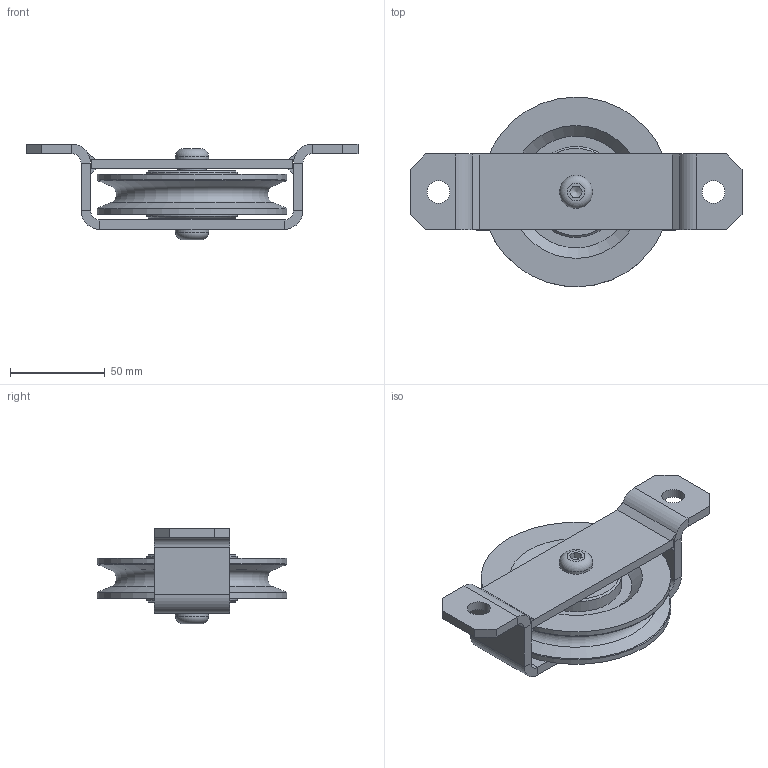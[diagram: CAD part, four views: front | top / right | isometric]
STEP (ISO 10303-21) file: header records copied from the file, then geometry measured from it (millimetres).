
FILE_DESCRIPTION(/* description */ ('Seilrolle ø100 Seitenbefestigung Kugellager'),/* implementation_level */ '2;1');
FILE_NAME(/* name */ 'Z:\Workspace\03 Seilrollen\1.407 K Seilrollen Seitenbefestigung Kugellager\1.407.03 K Seilrolle ø100 Seitenbefestigung Kugellager\1.407.03 K Seilrolle ø100 Seitenbefestigung Kugellager.stp',/* time_stamp */ '2021-10-08T13:40:19+02:00',/* author */ ('cad-user'),/* organization */ (''),/* preprocessor_version */ 'ST-DEVELOPER v18',/* originating_system */ 'Autodesk Inventor 2020',/* authorisation */ '');
FILE_SCHEMA (('AUTOMOTIVE_DESIGN { 1 0 10303 214 3 1 1 }'));
Length unit declared in the file: millimetre
Products named in the file (15): 1.407.03 K Seilrolle ø100 Seitenbefestigung Kugella
ger; 1.407.03.00 Seitenbefestigung SR ø100; 1.407.03.00 Seitenbefestigung SR ø100_1; 1.407.03.01 Blech 1; 1.407.03.02 Blech 2; 1.402.03 Seilrolle ø100 Kugellager komplett; 1.402.03 Seilrolle ø100 Kugellager; DIN625 - 6202-2RS; din625_-_6202-2rs_0_05; din625_-_6202-2rs_0_04; din625_-_6202-2rs_0_03; din625_-_6202-2rs_0_02; din625_-_6202-2rs_0_01; 1.405.03.02 K Achse; ISO 7380 - M10 x 16
Assembly tree (16 placements, depth 4):
  1.407.03 K Seilrolle ø100 Seitenbefestigung Kugella
ger
    1.407.03.00 Seitenbefestigung SR ø100
      1.407.03.00 Seitenbefestigung SR ø100_1
      1.407.03.01 Blech 1
      1.407.03.02 Blech 2
    1.402.03 Seilrolle ø100 Kugellager komplett
      1.402.03 Seilrolle ø100 Kugellager
      DIN625 - 6202-2RS  x2
        din625_-_6202-2rs_0_05
        din625_-_6202-2rs_0_04
        din625_-_6202-2rs_0_03
        din625_-_6202-2rs_0_02
        din625_-_6202-2rs_0_01
    1.405.03.02 K Achse
    ISO 7380 - M10 x 16  x2
Bounding box: 175 x 99.95 x 50.5 mm (x, y, z)
Volume: 189675.4 mm3; surface area: 82370.2 mm2
Topology: 20 solids, 20 shells, 222 faces, 563 edges, 393 vertices
Faces by surface type: plane 110, cylinder 55, torus 33, sphere 14, cone 10
Full cylindrical faces by diameter (mm): 8.376 x1, 10 x2, 11 x2, 12 x2, 15 x3, 17.5 x2, 19.1 x8, 21 x4, 29 x4, 31.9 x8, 32 x1, 35 x4, 48 x2, 100 x2
Entity records: 5788 total; most frequent: CARTESIAN_POINT 1327, DIRECTION 903, ORIENTED_EDGE 754, EDGE_CURVE 377, AXIS2_PLACEMENT_3D 369, VERTEX_POINT 268, EDGE_LOOP 207, CIRCLE 177
